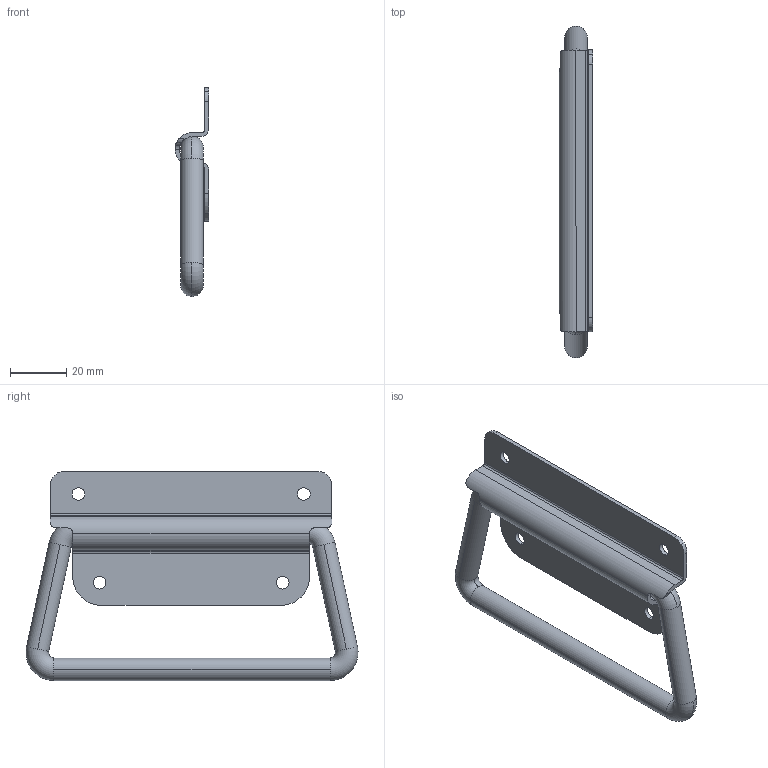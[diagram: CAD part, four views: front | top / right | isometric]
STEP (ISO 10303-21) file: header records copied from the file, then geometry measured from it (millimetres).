
FILE_DESCRIPTION((''),'2;1');
FILE_NAME('3512.stp','2014-03-05T11:54:07',(''),(''),'Mechanical Desktop 2006','Mechanical Desktop 2006',', , ');
FILE_SCHEMA(('CONFIG_CONTROL_DESIGN'));
Length unit declared in the file: millimetre
Products named in the file (3): 3512; OBERTEIL KISTENG 1056; BUGEL 1056
Assembly tree (2 placements, depth 2):
  3512
    OBERTEIL KISTENG 1056
    BUGEL 1056
Bounding box: 12 x 117.85 x 74.22 mm (x, y, z)
Volume: 22674.6 mm3; surface area: 18963.3 mm2
Topology: 2 solids, 2 shells, 72 faces, 200 edges, 132 vertices
Faces by surface type: cylinder 46, plane 18, torus 8
Entity records: 2623 total; most frequent: CARTESIAN_POINT 571, DIRECTION 434, ORIENTED_EDGE 400, EDGE_CURVE 200, AXIS2_PLACEMENT_3D 175, VERTEX_POINT 132, CIRCLE 100, VECTOR 84
